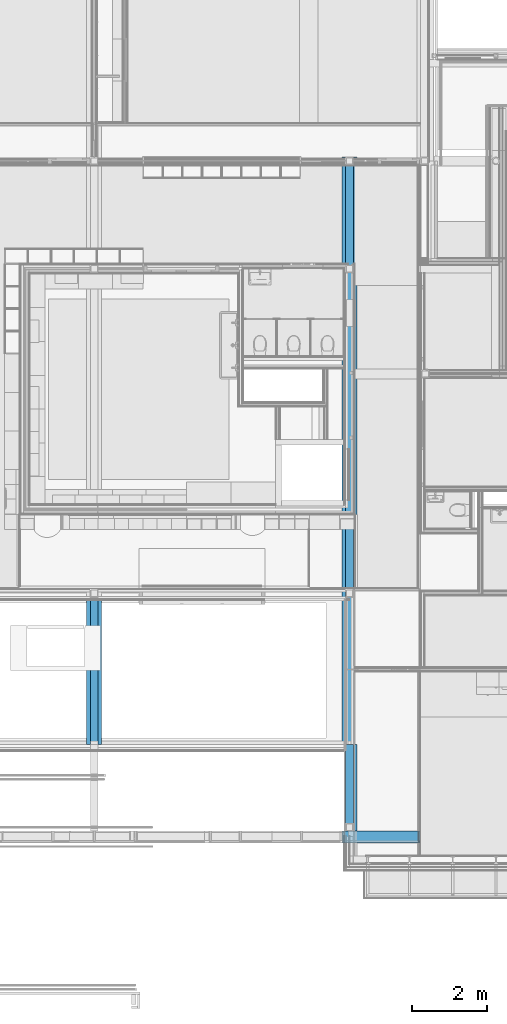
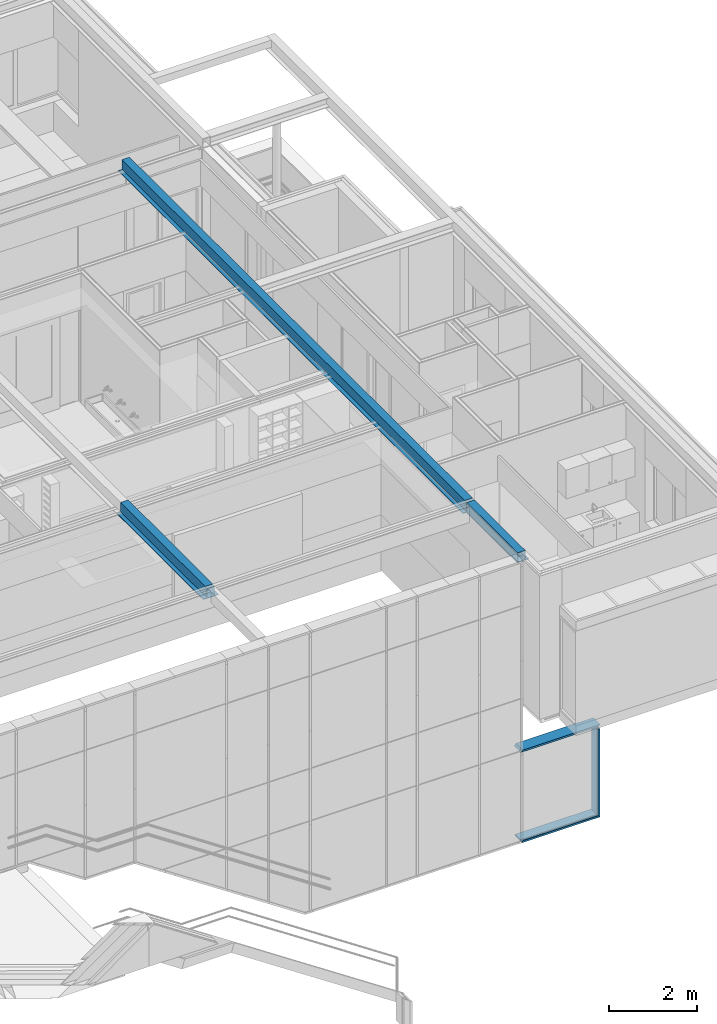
# One storey, part 20 of 137: 3 beams, 3 members, 1 element without a shape of its own.
"""IFC2X3 building model written with IfcOpenShell, lengths in millimetres."""

from ifc_helpers import new_model, entity, si_unit, converted_unit, derived_unit, money_unit, direction, frame, origin_with_axes, place, context, subcontext, project, spatial, faceted_brep, material, type_object, element, aggregate, save


model = new_model("IFC2X3")

# Units and contexts
model_context = context("Model", 3, precision=0.01, world=origin_with_axes(), true_north=direction((0.0, 1.0)))
body_context = subcontext(model_context, "Body", "Model", "MODEL_VIEW")
ifc_project = project(units=[si_unit("LENGTHUNIT", "METRE", prefix="MILLI"), si_unit("AREAUNIT", "SQUARE_METRE"), si_unit("VOLUMEUNIT", "CUBIC_METRE"), converted_unit("PLANEANGLEUNIT", "DEGREE", entity("IfcPlaneAngleMeasure", 0.0174532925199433), si_unit("PLANEANGLEUNIT", "RADIAN"), dimensions=[0, 0, 0, 0, 0, 0, 0]), money_unit("EUR"), converted_unit("TIMEUNIT", "Year", entity("IfcTimeMeasure", 31556926.0), si_unit("TIMEUNIT", "SECOND"), dimensions=[0, 0, 1, 0, 0, 0, 0]), si_unit("MASSUNIT", "GRAM", prefix="KILO"), si_unit("THERMODYNAMICTEMPERATUREUNIT", "DEGREE_CELSIUS"), si_unit("LUMINOUSINTENSITYUNIT", "LUMEN"), si_unit("ENERGYUNIT", "JOULE", prefix="MEGA"), derived_unit("THERMALCONDUCTANCEUNIT", [(si_unit("POWERUNIT", "WATT"), 1), (si_unit("LENGTHUNIT", "METRE"), -1), (si_unit("THERMODYNAMICTEMPERATUREUNIT", "KELVIN"), -1)]), derived_unit("SPECIFICHEATCAPACITYUNIT", [(si_unit("ENERGYUNIT", "JOULE"), 1), (si_unit("MASSUNIT", "GRAM", prefix="KILO"), -1), (si_unit("THERMODYNAMICTEMPERATUREUNIT", "KELVIN"), -1)]), derived_unit("MASSDENSITYUNIT", [(si_unit("MASSUNIT", "GRAM", prefix="KILO"), 1), (si_unit("VOLUMEUNIT", "CUBIC_METRE"), -1)])], contexts=[model_context])

# Site, building, storey
site_placement = place(None, origin_with_axes())
site = spatial("IfcSite", under=ifc_project, at=site_placement, Name="Site", CompositionType="ELEMENT")
building_placement = place(site_placement, origin_with_axes())
building = spatial("IfcBuilding", under=site, at=building_placement, Name="Naam gebouw", CompositionType="ELEMENT")
storey_placement = place(building_placement, frame((0.0, 0.0, 3960.0), z_axis=(0.0, 0.0, 1.0), x_axis=(1.0, 0.0, 0.0)))
storey = spatial("IfcBuildingStorey", under=building, at=storey_placement, Name="1e verdieping", CompositionType="ELEMENT", Elevation=3960.0)

# Beams
ifc_material_1 = material(Name="Metaal - Staal C")
beam_type_1 = type_object("IfcBeamType", Name="28 THQ 01 400 x 280", PredefinedType="BEAM")
beam_1_placement = place(storey_placement, frame((17699.99942456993, 6779.999999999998, 3860.000026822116), z_axis=(0.0, 0.0, 1.0), x_axis=(1.0, 0.0, 0.0)))
element("IfcBeam", 1, at=beam_1_placement, inside=storey, type_object=beam_type_1, material=ifc_material_1, Name="h METAAL_Regenwaterafvoer-x", ObjectType="BEAM", context=body_context, shape_type="Brep", body=[
    faceted_brep([(-100.9999999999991, 3930.000110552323, 0.0), (-100.9999999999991, 89.99999999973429, -6.035184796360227e-06), (100.9999999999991, 89.99999999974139, -5.796594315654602e-06), (100.9999999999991, 3930.000110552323, 0.0), (-100.9999999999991, 9.999999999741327, -14.00002682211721), (-100.9999999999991, 89.99999999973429, -14.00002682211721), (-100.9999999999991, 3930.000110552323, -264.9999977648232), (-100.9999999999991, -2.611244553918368e-10, -264.9999977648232), (-100.9999999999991, -2.629008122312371e-10, -260.0000268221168), (-100.9999999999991, 89.99999999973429, -260.0000268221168), (-100.9999999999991, 89.99999999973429, -246.0000268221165), (-100.9999999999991, 9.999999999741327, -246.0000268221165), (100.9999999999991, 89.99999999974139, -14.00002682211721), (100.9999999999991, 89.99999999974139, -246.0000268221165), (100.9999999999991, 89.99999999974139, -260.0000268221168), (100.9999999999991, -2.549072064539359e-10, -260.0000268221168), (100.9999999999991, -2.611244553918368e-10, -264.9999977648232), (100.9999999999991, 3930.000110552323, -264.9999977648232), (100.9999999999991, 9.999999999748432, -14.00002682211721), (100.9999999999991, 9.999999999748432, -246.0000268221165), (199.9999999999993, 3930.000110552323, -264.9999977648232), (199.9999999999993, 3930.000110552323, -279.9999977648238), (-199.9999999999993, 3930.000110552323, -279.9999977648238), (-199.9999999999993, 3930.000110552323, -264.9999977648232), (-94.99999999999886, 3930.000110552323, -264.9999977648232), (94.99999999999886, 3930.000110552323, -264.9999977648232), (94.99999999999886, 3930.000110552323, -30.00000000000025), (-94.99999999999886, 3930.000110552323, -30.00000000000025), (-199.9999999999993, -2.611244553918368e-10, -264.9999977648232), (-94.99999999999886, -2.611244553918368e-10, -264.9999977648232), (-94.99999999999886, -2.629008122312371e-10, -260.0000268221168), (-199.9999999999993, -2.611244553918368e-10, -279.9999977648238), (199.9999999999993, -2.611244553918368e-10, -279.9999977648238), (199.9999999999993, -2.611244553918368e-10, -264.9999977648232), (94.99999999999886, -2.557953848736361e-10, -260.0000268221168), (94.99999999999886, -2.611244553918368e-10, -264.9999977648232), (-94.99999999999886, 89.99999999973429, -260.0000268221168), (-94.99999999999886, 89.99999999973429, -246.0000268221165), (-94.99999999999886, 9.999999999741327, -246.0000268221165), (94.99999999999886, 9.999999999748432, -246.0000268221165), (-94.99999999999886, 9.999999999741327, -30.00000000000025), (94.99999999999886, 9.999999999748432, -30.00000000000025), (94.99999999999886, 89.99999999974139, -260.0000268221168), (94.99999999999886, 89.99999999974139, -246.0000268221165)], [[[0, 1, 2, 3]], [[4, 5, 1, 0, 6, 7, 8, 9, 10, 11]], [[5, 12, 2, 1]], [[13, 14, 15, 16, 17, 3, 2, 12, 18, 19]], [[20, 21, 22, 23, 6, 0, 3, 17], [24, 25, 26, 27]], [[4, 18, 12, 5]], [[23, 28, 7, 6]], [[29, 30, 8, 7, 28, 31, 32, 33, 16, 15, 34, 35]], [[8, 30, 36, 9]], [[9, 36, 37, 10]], [[10, 37, 38, 11]], [[39, 19, 18, 4, 11, 38, 40, 41]], [[42, 14, 13, 43]], [[34, 15, 14, 42]], [[17, 16, 33, 20]], [[43, 13, 19, 39]], [[20, 33, 32, 21]], [[21, 32, 31, 22]], [[22, 31, 28, 23]], [[24, 29, 35, 25]], [[43, 39, 41, 26, 25, 35, 34, 42]], [[26, 41, 40, 27]], [[37, 36, 30, 29, 24, 27, 40, 38]]]),
])
beam_type_2 = type_object("IfcBeamType", Name="28 THQ enkele flens 03 315 x 275", PredefinedType="BEAM")
beam_2_placement = place(storey_placement, frame((24499.99903999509, 4479.999999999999, 3859.999999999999), z_axis=(0.0, 0.0, 1.0), x_axis=(1.0, 0.0, 0.0)))
element("IfcBeam", 2, at=beam_2_placement, inside=storey, type_object=beam_type_2, material=ifc_material_1, Name="h METAAL_Regenwaterafvoer-x", ObjectType="BEAM", context=body_context, shape_type="Brep", body=[
    faceted_brep([(89.99973128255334, 9.999999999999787, -275.0000000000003), (-90.00026871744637, 9.999999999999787, -275.0000000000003), (-90.00026871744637, 189.9999999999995, -275.0000000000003), (89.99973128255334, 189.9999999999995, -275.0000000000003), (89.99973128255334, 9.999999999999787, -264.9999999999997), (-90.00026871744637, 9.999999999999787, -264.9999999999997), (-90.00026871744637, 189.9999999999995, -264.9999999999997), (89.99973128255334, 189.9999999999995, -264.9999999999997)], [[[0, 1, 2, 3]], [[0, 4, 5, 1]], [[1, 5, 6, 2]], [[2, 6, 7, 3]], [[3, 7, 4, 0]], [[6, 5, 4, 7]]]),
    faceted_brep([(99.9997312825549, 199.9999999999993, -275.0000000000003), (-100.0002687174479, 199.9999999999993, -275.0000000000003), (-100.0002687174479, 0.0, -275.0000000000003), (-115.9999999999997, 0.0, -275.0000000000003), (-115.9999999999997, 2300.0, -275.0000000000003), (199.0000044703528, 2300.0, -275.0000000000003), (199.0000044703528, 0.0, -275.0000000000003), (99.9997312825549, 0.0, -275.0000000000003), (-100.0002687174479, 199.9999999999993, -259.9999999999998), (99.9997312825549, 199.9999999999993, -259.9999999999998), (94.99999999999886, 199.9999999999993, -259.9999999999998), (94.99999999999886, 199.9999999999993, -264.9999999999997), (-94.99999999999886, 199.9999999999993, -264.9999999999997), (-94.99999999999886, 199.9999999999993, -259.9999999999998), (-100.0002687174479, 0.0, -259.9999999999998), (94.99999999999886, 0.0, -259.9999999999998), (99.9997312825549, 0.0, -259.9999999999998), (199.0000044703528, 0.0, -264.9999999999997), (100.9999999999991, 0.0, -264.9999999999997), (100.9999999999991, 0.0, 0.0), (-100.9999999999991, 0.0, 0.0), (-100.9999999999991, 0.0, -264.9999999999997), (-115.9999999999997, 0.0, -264.9999999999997), (-94.99999999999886, 0.0, -259.9999999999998), (-94.99999999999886, 0.0, -14.99999999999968), (94.99999999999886, 0.0, -14.99999999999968), (-115.9999999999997, 2300.0, -264.9999999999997), (-100.9999999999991, 2300.0, -264.9999999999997), (-100.9999999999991, 2300.0, 0.0), (100.9999999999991, 2300.0, 0.0), (100.9999999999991, 2300.0, -264.9999999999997), (199.0000044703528, 2300.0, -264.9999999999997), (94.99999999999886, 2300.0, -264.9999999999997), (94.99999999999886, 2300.0, -14.99999999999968), (-94.99999999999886, 2300.0, -14.99999999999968), (-94.99999999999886, 2300.0, -264.9999999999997)], [[[0, 1, 2, 3, 4, 5, 6, 7]], [[8, 1, 0, 9, 10, 11, 12, 13]], [[14, 2, 1, 8]], [[15, 16, 7, 6, 17, 18, 19, 20, 21, 22, 3, 2, 14, 23, 24, 25]], [[3, 22, 26, 4]], [[26, 27, 28, 29, 30, 31, 5, 4], [32, 33, 34, 35]], [[17, 6, 5, 31]], [[9, 0, 7, 16]], [[9, 16, 15, 10]], [[11, 10, 15, 25, 33, 32]], [[35, 12, 11, 32]], [[23, 13, 12, 35, 34, 24]], [[8, 13, 23, 14]], [[18, 17, 31, 30]], [[19, 18, 30, 29]], [[20, 19, 29, 28]], [[21, 20, 28, 27]], [[22, 21, 27, 26]], [[25, 24, 34, 33]]]),
])
beam_type_3 = type_object("IfcBeamType", Name="28 THQ 06 400 x 275", PredefinedType="BEAM")
beam_3_placement = place(storey_placement, frame((24499.99903999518, 6779.999999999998, 3860.000026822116), z_axis=(0.0, 0.0, 1.0), x_axis=(1.0, 0.0, 0.0)))
element("IfcBeam", 3, at=beam_3_placement, inside=storey, type_object=beam_type_3, material=ifc_material_1, Name="h METAAL_Regenwaterafvoer-x", ObjectType="BEAM", context=body_context, shape_type="Brep", body=[
    faceted_brep([(89.99999999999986, 3940.000110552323, -274.9999977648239), (-89.99999999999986, 3940.000110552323, -274.9999977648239), (-89.99999999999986, 4120.000110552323, -274.9999977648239), (89.99999999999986, 4120.000110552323, -274.9999977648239), (89.99999999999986, 3940.000110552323, -264.9999977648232), (-89.99999999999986, 3940.000110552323, -264.9999977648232), (-89.99999999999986, 4120.000110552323, -264.9999977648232), (89.99999999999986, 4120.000110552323, -264.9999977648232)], [[[0, 1, 2, 3]], [[0, 4, 5, 1]], [[1, 5, 6, 2]], [[2, 6, 7, 3]], [[3, 7, 4, 0]], [[6, 5, 4, 7]]]),
    faceted_brep([(89.98443325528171, 12580.00039292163, -274.9999977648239), (-90.015566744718, 12580.00039292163, -274.9999977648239), (-90.015566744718, 12760.00039292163, -274.9999977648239), (89.98443325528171, 12760.00039292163, -274.9999977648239), (89.98443325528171, 12580.00039292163, -264.9999977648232), (-90.015566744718, 12580.00039292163, -264.9999977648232), (-90.015566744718, 12760.00039292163, -264.9999977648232), (89.98443325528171, 12760.00039292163, -264.9999977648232)], [[[0, 1, 2, 3]], [[0, 4, 5, 1]], [[1, 5, 6, 2]], [[2, 6, 7, 3]], [[3, 7, 4, 0]], [[6, 5, 4, 7]]]),
    faceted_brep([(90.00000000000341, 15454.99984707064, -274.9999977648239), (-89.9999999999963, 15454.99984707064, -274.9999977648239), (-89.9999999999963, 15634.99984707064, -274.9999977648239), (90.00000000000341, 15634.99984707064, -274.9999977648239), (90.00000000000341, 15454.99984707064, -264.9999977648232), (-89.9999999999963, 15454.99984707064, -264.9999977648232), (-89.9999999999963, 15634.99984707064, -264.9999977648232), (90.00000000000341, 15634.99984707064, -264.9999977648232)], [[[0, 1, 2, 3]], [[0, 4, 5, 1]], [[1, 5, 6, 2]], [[2, 6, 7, 3]], [[3, 7, 4, 0]], [[6, 5, 4, 7]]]),
    faceted_brep([(-94.99999999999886, 15644.99984707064, -260.0000268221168), (-99.99999999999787, 15644.99984707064, -260.0000268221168), (-99.99999999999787, 15644.99984707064, -274.9999977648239), (-199.9999999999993, 15644.99984707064, -274.9999977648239), (-199.9999999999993, 15644.99984707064, -264.9999977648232), (-100.9999999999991, 15644.99984707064, -264.9999977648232), (-100.9999999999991, 15644.99984707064, 0.0), (100.9999999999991, 15644.99984707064, 0.0), (100.9999999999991, 15644.99984707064, -264.9999977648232), (199.9999999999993, 15644.99984707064, -264.9999977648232), (199.9999999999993, 15644.99984707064, -274.9999977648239), (100.000000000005, 15644.99984707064, -274.9999977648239), (100.000000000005, 15644.99984707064, -260.0000268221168), (94.99999999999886, 15644.99984707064, -260.0000268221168), (94.99999999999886, 15644.99984707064, -14.99999999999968), (-94.99999999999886, 15644.99984707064, -14.99999999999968), (-99.99999999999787, 15444.99984707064, -260.0000268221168), (-94.99999999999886, 15444.99984707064, -260.0000268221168), (-99.99999999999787, 15444.99984707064, -274.9999977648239), (100.000000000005, 15444.99984707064, -274.9999977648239), (199.9999999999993, 0.0, -274.9999977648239), (-199.9999999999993, 0.0, -274.9999977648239), (-100.0000000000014, 4130.000110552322, -274.9999977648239), (-100.0000000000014, 3930.000110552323, -274.9999977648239), (100.0000000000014, 3930.000110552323, -274.9999977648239), (100.0000000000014, 4130.000110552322, -274.9999977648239), (-100.0155667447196, 12770.00039292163, -274.9999977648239), (-100.0155667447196, 12570.00039292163, -274.9999977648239), (99.98443325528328, 12570.00039292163, -274.9999977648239), (99.98443325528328, 12770.00039292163, -274.9999977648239), (-199.9999999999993, 0.0, -264.9999977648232), (-100.9999999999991, 0.0, -264.9999977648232), (-100.9999999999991, 9.999999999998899, -246.0000268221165), (-100.9999999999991, 9.999999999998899, -14.00002682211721), (-100.9999999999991, 89.9999999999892, -14.00002682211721), (-100.9999999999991, 89.9999999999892, 1.996586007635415e-06), (-100.9999999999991, 0.0, -260.0000268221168), (-100.9999999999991, 89.9999999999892, -260.0000268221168), (-100.9999999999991, 89.9999999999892, -246.0000268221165), (100.9999966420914, 89.99999999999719, 2.23517648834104e-06), (100.9999966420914, 10.00000000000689, -246.0000268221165), (100.9999966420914, 89.99999999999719, -246.0000268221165), (100.9999966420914, 89.99999999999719, -260.0000268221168), (100.9999966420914, 0.0, -260.0000268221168), (100.9999999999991, 0.0, -264.9999977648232), (100.9999966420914, 89.99999999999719, -14.00002682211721), (100.9999966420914, 10.00000000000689, -14.00002682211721), (199.9999999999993, 0.0, -264.9999977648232), (100.000000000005, 15444.99984707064, -260.0000268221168), (94.99999999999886, 15444.99984707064, -260.0000268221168), (94.99999999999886, 15444.99984707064, -264.9999977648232), (94.99999999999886, 12770.00039292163, -264.9999977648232), (94.99999999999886, 12770.00039292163, -260.0000268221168), (94.99999999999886, 12570.00039292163, -260.0000268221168), (94.99999999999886, 12570.00039292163, -264.9999977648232), (94.99999999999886, 4130.000110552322, -264.9999977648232), (94.99999999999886, 4130.000110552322, -260.0000268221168), (94.99999999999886, 3930.000110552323, -260.0000268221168), (94.99999999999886, 3930.000110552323, -264.9999977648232), (94.99999999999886, 0.0, -264.9999977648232), (94.99999999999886, 0.0, -260.0000268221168), (94.99999999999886, 89.99999999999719, -260.0000268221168), (94.99999999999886, 89.99999999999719, -246.0000268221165), (94.99999999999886, 10.00000000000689, -246.0000268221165), (94.99999999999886, 10.000000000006, -14.99999999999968), (-94.99999999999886, 9.999999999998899, -14.99999999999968), (-94.99999999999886, 15444.99984707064, -264.9999977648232), (-94.99999999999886, 9.999999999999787, -246.0000268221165), (-94.99999999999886, 89.99999999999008, -246.0000268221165), (-94.99999999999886, 89.99999999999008, -260.0000268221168), (-94.99999999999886, 0.0, -260.0000268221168), (-94.99999999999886, 0.0, -264.9999977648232), (-94.99999999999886, 3930.000110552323, -264.9999977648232), (-94.99999999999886, 3930.000110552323, -260.0000268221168), (-94.99999999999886, 4130.000110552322, -260.0000268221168), (-94.99999999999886, 4130.000110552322, -264.9999977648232), (-94.99999999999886, 12570.00039292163, -264.9999977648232), (-94.99999999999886, 12570.00039292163, -260.0000268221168), (-94.99999999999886, 12770.00039292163, -260.0000268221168), (-94.99999999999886, 12770.00039292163, -264.9999977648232), (-100.0000000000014, 3930.000110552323, -260.0000268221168), (-100.0000000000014, 4130.000110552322, -260.0000268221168), (100.0000000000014, 3930.000110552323, -260.0000268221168), (100.0000000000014, 4130.000110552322, -260.0000268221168), (-100.0155667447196, 12570.00039292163, -260.0000268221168), (-100.0155667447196, 12770.00039292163, -260.0000268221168), (99.98443325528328, 12570.00039292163, -260.0000268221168), (99.98443325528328, 12770.00039292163, -260.0000268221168)], [[[0, 1, 2, 3, 4, 5, 6, 7, 8, 9, 10, 11, 12, 13, 14, 15]], [[16, 1, 0, 17]], [[18, 2, 1, 16]], [[18, 19, 11, 10, 20, 21, 3, 2], [22, 23, 24, 25], [26, 27, 28, 29]], [[4, 3, 21, 30]], [[5, 4, 30, 31]], [[32, 33, 34, 35, 6, 5, 31, 36, 37, 38]], [[7, 6, 35, 39]], [[40, 41, 42, 43, 44, 8, 7, 39, 45, 46]], [[9, 8, 44, 47]], [[10, 9, 47, 20]], [[48, 12, 11, 19]], [[49, 13, 12, 48]], [[13, 49, 50, 51, 52, 53, 54, 55, 56, 57, 58, 59, 60, 61, 62, 63, 64, 14]], [[15, 14, 64, 65]], [[66, 17, 0, 15, 65, 67, 68, 69, 70, 71, 72, 73, 74, 75, 76, 77, 78, 79]], [[48, 19, 18, 16, 17, 66, 50, 49]], [[59, 71, 70, 36, 31, 30, 21, 20, 47, 44, 43, 60]], [[80, 23, 22, 81]], [[82, 24, 23, 80, 73, 72, 58, 57]], [[83, 25, 24, 82]], [[81, 22, 25, 83, 56, 55, 75, 74]], [[84, 27, 26, 85]], [[86, 28, 27, 84, 77, 76, 54, 53]], [[87, 29, 28, 86]], [[85, 26, 29, 87, 52, 51, 79, 78]], [[64, 63, 40, 46, 33, 32, 67, 65]], [[34, 33, 46, 45]], [[35, 34, 45, 39]], [[37, 36, 70, 69]], [[38, 37, 69, 68]], [[32, 38, 68, 67]], [[63, 62, 41, 40]], [[62, 61, 42, 41]], [[61, 60, 43, 42]], [[51, 50, 66, 79]], [[86, 53, 52, 87]], [[55, 54, 76, 75]], [[82, 57, 56, 83]], [[59, 58, 72, 71]], [[81, 74, 73, 80]], [[85, 78, 77, 84]]]),
])

# Curtain wall, members
curtain_wall_type = type_object("IfcCurtainWallType", Name="Curtain Wall Type", PredefinedType="NOTDEFINED")
curtain_wall_placement = place(storey_placement, frame((8473.014787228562, 4364.43626274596, -3949.999921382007), z_axis=(0.0, 0.0, 1.0), x_axis=(1.0, 0.0, 0.0)))
curtain_wall = element("IfcCurtainWall", 4, at=curtain_wall_placement, inside=storey, type_object=curtain_wall_type, Name="21_Vliesgevel-x")
ifc_material_2 = material(Name="Metaal - Staal AFW")
member_type = type_object("IfcMemberType", Name="Boundary Frame 50 x 313", PredefinedType="MULLION")
member_1_placement = place(curtain_wall_placement, frame((17902.98668758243, -161.4362627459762, 2560.000004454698), z_axis=(-1.0, 0.0, 0.0), x_axis=(0.0, 0.0, -1.0)))
member_1 = element("IfcMember", 5, at=member_1_placement, type_object=member_type, material=ifc_material_2, Name="h METAAL_Kader-x", ObjectType="MULLION", context=body_context, shape_type="Brep", body=[
    faceted_brep([(35.00000000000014, 20.99999999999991, 35.00000000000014), (35.00000000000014, 20.99999999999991, 2057.000432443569), (35.00000000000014, -17.4000000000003, 2057.000432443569), (35.00000000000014, -17.4000000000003, 35.00000000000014), (15.00000000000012, 20.99999999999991, 15.00000000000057), (15.00000000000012, 20.99999999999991, 2037.00043244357), (15.00000000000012, -17.4000000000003, 2037.00043244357), (15.00000000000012, -17.4000000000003, 15.00000000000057)], [[[0, 1, 2, 3]], [[4, 5, 1, 0]], [[2, 1, 5, 6]], [[3, 2, 6, 7]], [[3, 7, 4, 0]], [[7, 6, 5, 4]]]),
    faceted_brep([(15.00000000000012, 20.99999999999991, 15.00000000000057), (15.00000000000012, 20.99999999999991, 2037.00043244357), (15.00000000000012, -20.99999999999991, 2037.00043244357), (15.00000000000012, -20.99999999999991, 15.00000000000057), (0.0, 20.99999999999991, 0.0), (0.0, 20.99999999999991, 2022.000432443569), (0.0, -20.99999999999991, 2022.000432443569), (0.0, -20.99999999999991, 0.0)], [[[0, 1, 2, 3]], [[4, 5, 1, 0]], [[2, 1, 5, 6]], [[3, 2, 6, 7]], [[3, 7, 4, 0]], [[7, 6, 5, 4]]]),
    faceted_brep([(0.0, -272.0000000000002, 0.0), (0.0, -272.0000000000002, 2022.000432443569), (0.0, -17.4000000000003, 2022.000432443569), (0.0, -17.4000000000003, 0.0), (49.99999999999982, -272.0000000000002, 50.00000000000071), (49.99999999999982, -272.0000000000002, 2072.00043244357), (49.99999999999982, -17.4000000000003, 2072.00043244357), (49.99999999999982, -17.4000000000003, 50.00000000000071)], [[[0, 1, 2, 3]], [[1, 0, 4, 5]], [[2, 1, 5, 6]], [[3, 2, 6, 7]], [[3, 7, 4, 0]], [[6, 5, 4, 7]]]),
    faceted_brep([(0.0, 20.99999999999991, 2022.000432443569), (0.0, 20.99999999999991, 0.0), (49.99999999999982, 20.99999999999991, 50.00000000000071), (49.99999999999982, 20.99999999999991, 2072.00043244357), (0.0, 41.00000000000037, 2022.000432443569), (0.0, 41.00000000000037, 0.0), (49.99999999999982, 41.00000000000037, 50.00000000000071), (49.99999999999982, 41.00000000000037, 2072.00043244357)], [[[0, 1, 2, 3]], [[1, 0, 4, 5]], [[1, 5, 6, 2]], [[7, 3, 2, 6]], [[4, 0, 3, 7]], [[5, 4, 7, 6]]]),
])
member_2_placement = place(curtain_wall_placement, frame((17902.98668758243, -161.4362627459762, 0.0), z_axis=(0.0, 0.0, 1.0), x_axis=(-1.0, 0.0, 0.0)))
member_2 = element("IfcMember", 6, at=member_2_placement, type_object=member_type, material=ifc_material_2, Name="h METAAL_Kader-x", ObjectType="MULLION", context=body_context, shape_type="Brep", body=[
    faceted_brep([(35.00000000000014, 20.99999999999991, 35.00000063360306), (35.00000000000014, 20.99999999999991, 2439.99976629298), (35.00000000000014, -17.4000000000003, 2439.99976629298), (35.00000000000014, -17.4000000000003, 35.00000063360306), (15.00000000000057, 20.99999999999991, 15.00000027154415), (15.00000000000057, 20.99999999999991, 2439.99976629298), (15.00000000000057, -17.4000000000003, 2439.99976629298), (15.00000000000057, -17.4000000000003, 15.00000027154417)], [[[0, 1, 2, 3]], [[4, 5, 1, 0]], [[2, 1, 5, 6]], [[3, 2, 6, 7]], [[3, 7, 4, 0]], [[7, 6, 5, 4]]]),
    faceted_brep([(15.00000000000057, 20.99999999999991, 15.00000027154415), (15.00000000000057, 20.99999999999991, 2439.99976629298), (15.00000000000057, -20.99999999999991, 2439.99976629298), (15.00000000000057, -20.99999999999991, 15.00000027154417), (0.0, 20.99999999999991, 0.0), (0.0, 20.99999999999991, 2439.99976629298), (0.0, -20.99999999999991, 2439.99976629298), (0.0, -20.99999999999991, 0.0)], [[[0, 1, 2, 3]], [[4, 5, 1, 0]], [[2, 1, 5, 6]], [[3, 2, 6, 7]], [[3, 7, 4, 0]], [[7, 6, 5, 4]]]),
    faceted_brep([(50.00000000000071, -17.4000000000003, 50.0000009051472), (50.00000000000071, -17.4000000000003, 2439.99976629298), (50.00000000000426, -272.0000000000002, 2439.99976629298), (50.00000000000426, -272.0000000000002, 50.00000090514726), (0.0, -17.4000000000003, 0.0), (0.0, -17.4000000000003, 2439.99976629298), (0.0, -272.0000000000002, 2439.99976629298), (0.0, -272.0000000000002, 0.0)], [[[0, 1, 2, 3]], [[4, 5, 1, 0]], [[2, 1, 5, 6]], [[3, 2, 6, 7]], [[3, 7, 4, 0]], [[7, 6, 5, 4]]]),
    faceted_brep([(0.0, 20.99999999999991, 0.0), (0.0, 20.99999999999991, 2439.99976629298), (0.0, 41.00000000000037, 2439.99976629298), (0.0, 41.00000000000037, 0.0), (50.00000000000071, 20.99999999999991, 50.0000009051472), (50.00000000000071, 20.99999999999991, 2439.99976629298), (50.00000000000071, 41.00000000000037, 2439.99976629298), (50.00000000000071, 41.00000000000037, 50.0000009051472)], [[[0, 1, 2, 3]], [[4, 5, 1, 0]], [[2, 1, 5, 6]], [[3, 2, 6, 7]], [[3, 7, 4, 0]], [[7, 6, 5, 4]]]),
])
member_3_placement = place(curtain_wall_placement, frame((15856.6559201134, -161.4362627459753, 3.704461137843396e-05), z_axis=(0.9999999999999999, 0.0, -1.810294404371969e-08), x_axis=(1.810294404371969e-08, 0.0, 0.9999999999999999)))
member_3 = element("IfcMember", 7, at=member_3_placement, type_object=member_type, material=ifc_material_2, Name="h METAAL_Kader-x", ObjectType="MULLION", context=body_context, shape_type="Brep", body=[
    faceted_brep([(35.0, -17.4000000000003, -6.336016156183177e-07), (35.0, 20.99999999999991, -6.336016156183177e-07), (35.00003641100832, 20.99999999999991, 2011.330766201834), (35.00003641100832, -17.4000000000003, 2011.330766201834), (15.0, -17.4000000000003, -2.715445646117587e-07), (15.0, 20.99999999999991, -2.715445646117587e-07), (15.00003677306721, 20.99999999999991, 2031.330766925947), (15.00003677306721, -17.4000000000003, 2031.330766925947)], [[[0, 1, 2, 3]], [[0, 4, 5, 1]], [[1, 5, 6, 2]], [[3, 2, 6, 7]], [[4, 0, 3, 7]], [[5, 4, 7, 6]]]),
    faceted_brep([(15.0, -20.99999999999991, -2.715445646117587e-07), (15.0, 20.99999999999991, -2.715445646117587e-07), (15.00003677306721, 20.99999999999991, 2031.330766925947), (15.00003677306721, -20.99999999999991, 2031.330766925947), (0.0, -20.99999999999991, 0.0), (0.0, 20.99999999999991, 0.0), (3.704461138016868e-05, 20.99999999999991, 2046.330767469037), (3.704461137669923e-05, -20.99999999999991, 2046.330767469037)], [[[0, 1, 2, 3]], [[0, 4, 5, 1]], [[1, 5, 6, 2]], [[3, 2, 6, 7]], [[4, 0, 3, 7]], [[5, 4, 7, 6]]]),
    faceted_brep([(49.99999999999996, -272.0000000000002, -9.051461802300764e-07), (50.0, -17.4000000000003, -9.051461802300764e-07), (50.00003613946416, -17.4000000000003, 1996.330765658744), (50.00003613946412, -272.0000000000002, 1996.330765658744), (0.0, -272.0000000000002, 0.0), (0.0, -17.4000000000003, 0.0), (3.704461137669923e-05, -17.39999999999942, 2046.330767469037), (3.704461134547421e-05, -272.0000000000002, 2046.330767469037)], [[[0, 1, 2, 3]], [[0, 4, 5, 1]], [[1, 5, 6, 2]], [[3, 2, 6, 7]], [[4, 0, 3, 7]], [[5, 4, 7, 6]]]),
    faceted_brep([(0.0, 41.00000000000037, 0.0), (0.0, 20.99999999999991, 0.0), (3.704461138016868e-05, 20.99999999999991, 2046.330767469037), (3.704461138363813e-05, 41.00000000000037, 2046.330767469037), (50.0, 41.00000000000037, -9.051461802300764e-07), (50.0, 20.99999999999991, -9.051461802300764e-07), (50.00003613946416, 20.99999999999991, 1996.330765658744), (50.00003613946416, 41.00000000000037, 1996.330765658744)], [[[0, 1, 2, 3]], [[0, 4, 5, 1]], [[1, 5, 6, 2]], [[3, 2, 6, 7]], [[4, 0, 3, 7]], [[5, 4, 7, 6]]]),
])
aggregate(curtain_wall, [member_1, member_2, member_3])

save(model, "model.ifc")
